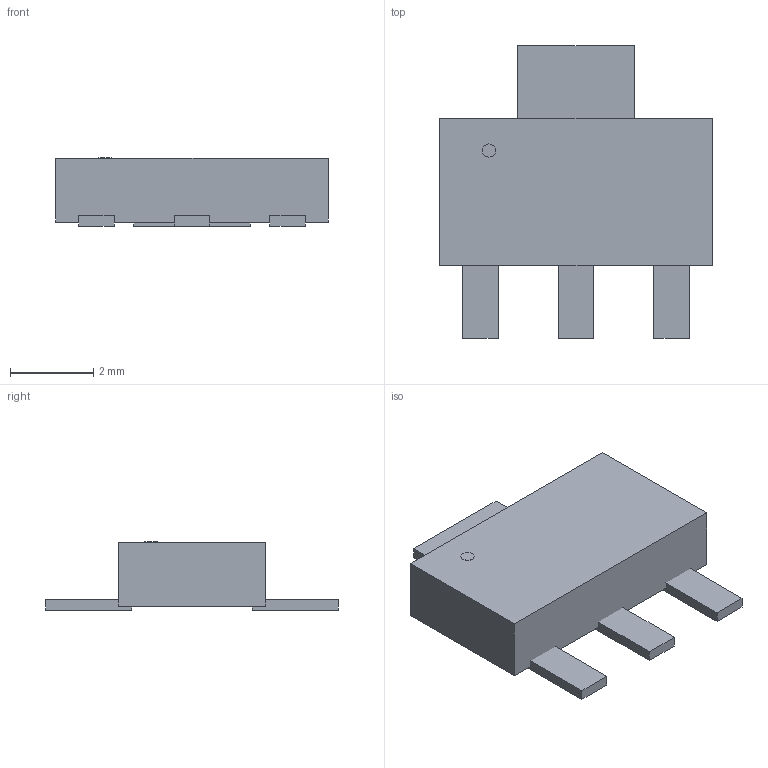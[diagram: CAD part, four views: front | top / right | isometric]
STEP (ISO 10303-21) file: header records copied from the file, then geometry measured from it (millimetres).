
FILE_DESCRIPTION(('FreeCAD Model'),'2;1');
FILE_NAME('Open CASCADE Shape Model','2026-09-21T21:53:17',('FreeCAD'),( 'FreeCAD'),'Open CASCADE STEP processor 7.8','FreeCAD','Unknown');
FILE_SCHEMA(('AUTOMOTIVE_DESIGN { 1 0 10303 214 1 1 1 1 }'));
Length unit declared in the file: millimetre
Products named in the file (1): Open CASCADE STEP translator 7.8 4
Bounding box: 6.55 x 7.05 x 1.65 mm (x, y, z)
Volume: 38.5 mm3; surface area: 106.9 mm2
Topology: 6 solids, 6 shells, 48 faces, 108 edges, 72 vertices
Faces by surface type: plane 48
Entity records: 1312 total; most frequent: CARTESIAN_POINT 229, ORIENTED_EDGE 216, DIRECTION 206, EDGE_CURVE 108, LINE 108, VECTOR 108, VERTEX_POINT 72, AXIS2_PLACEMENT_3D 49
